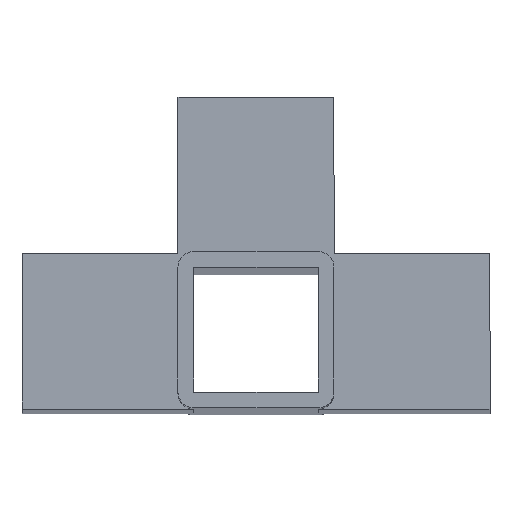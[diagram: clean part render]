
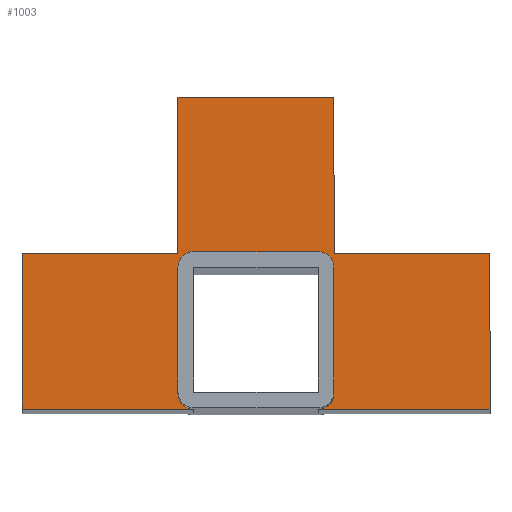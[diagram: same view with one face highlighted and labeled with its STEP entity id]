
A CAD part, top view. The second image highlights one B-rep face of the part: STEP entity #1003.
In plain terms, the highlighted planar face has unit normal (0, 0, 1).
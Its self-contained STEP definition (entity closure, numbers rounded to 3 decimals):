
#21 = VECTOR ( 'NONE', #971, 1000. ) ;
#32 = EDGE_CURVE ( 'NONE', #946, #1037, #891, .T. ) ;
#42 = ORIENTED_EDGE ( 'NONE', *, *, #797, .F. ) ;
#53 = VECTOR ( 'NONE', #463, 1000. ) ;
#58 = ORIENTED_EDGE ( 'NONE', *, *, #742, .F. ) ;
#62 = CARTESIAN_POINT ( 'NONE',  ( 15., 45., 250. ) ) ;
#64 = CARTESIAN_POINT ( 'NONE',  ( 12., -15., 250. ) ) ;
#84 = DIRECTION ( 'NONE',  ( 1., 0., 0. ) ) ;
#112 = LINE ( 'NONE', #836, #1169 ) ;
#131 = LINE ( 'NONE', #563, #238 ) ;
#150 = VECTOR ( 'NONE', #323, 1000. ) ;
#162 = LINE ( 'NONE', #1300, #253 ) ;
#174 = DIRECTION ( 'NONE',  ( 0., 0., 1. ) ) ;
#179 = VECTOR ( 'NONE', #531, 1000. ) ;
#185 = CARTESIAN_POINT ( 'NONE',  ( -15., 15., 250. ) ) ;
#187 = ORIENTED_EDGE ( 'NONE', *, *, #1052, .F. ) ;
#188 = LINE ( 'NONE', #356, #343 ) ;
#212 = CARTESIAN_POINT ( 'NONE',  ( 15., 0., 250. ) ) ;
#221 = VERTEX_POINT ( 'NONE', #532 ) ;
#225 = CARTESIAN_POINT ( 'NONE',  ( -12., 12., 250. ) ) ;
#238 = VECTOR ( 'NONE', #861, 1000. ) ;
#240 = CIRCLE ( 'NONE', #589, 3. ) ;
#249 = VERTEX_POINT ( 'NONE', #1143 ) ;
#253 = VECTOR ( 'NONE', #261, 1000. ) ;
#254 = LINE ( 'NONE', #212, #53 ) ;
#261 = DIRECTION ( 'NONE',  ( 0., -1., 0. ) ) ;
#272 = EDGE_LOOP ( 'NONE', ( #42, #488, #427, #1304, #1322, #389, #1107, #58, #705, #515, #675, #1070, #764, #316, #600, #187 ) ) ;
#277 = CARTESIAN_POINT ( 'NONE',  ( -45., -15., 250. ) ) ;
#291 = VERTEX_POINT ( 'NONE', #537 ) ;
#293 = CARTESIAN_POINT ( 'NONE',  ( -45., 15., 250. ) ) ;
#307 = EDGE_CURVE ( 'NONE', #852, #472, #254, .T. ) ;
#316 = ORIENTED_EDGE ( 'NONE', *, *, #709, .F. ) ;
#323 = DIRECTION ( 'NONE',  ( -1., 0., 0. ) ) ;
#326 = DIRECTION ( 'NONE',  ( 0., 0., 1. ) ) ;
#343 = VECTOR ( 'NONE', #84, 1000. ) ;
#350 = VERTEX_POINT ( 'NONE', #185 ) ;
#356 = CARTESIAN_POINT ( 'NONE',  ( 0., 15., 250. ) ) ;
#385 = EDGE_CURVE ( 'NONE', #1009, #965, #760, .T. ) ;
#388 = CARTESIAN_POINT ( 'NONE',  ( 0., 15., 250. ) ) ;
#389 = ORIENTED_EDGE ( 'NONE', *, *, #385, .F. ) ;
#427 = ORIENTED_EDGE ( 'NONE', *, *, #684, .T. ) ;
#446 = DIRECTION ( 'NONE',  ( 1., 0., 0. ) ) ;
#458 = CARTESIAN_POINT ( 'NONE',  ( -12., 15., 250. ) ) ;
#463 = DIRECTION ( 'NONE',  ( 0., -1., 0. ) ) ;
#464 = CIRCLE ( 'NONE', #1016, 3. ) ;
#472 = VERTEX_POINT ( 'NONE', #983 ) ;
#477 = DIRECTION ( 'NONE',  ( 1., 0., 0. ) ) ;
#482 = LINE ( 'NONE', #1155, #150 ) ;
#488 = ORIENTED_EDGE ( 'NONE', *, *, #1024, .T. ) ;
#515 = ORIENTED_EDGE ( 'NONE', *, *, #886, .F. ) ;
#526 = VERTEX_POINT ( 'NONE', #783 ) ;
#531 = DIRECTION ( 'NONE',  ( 1., 0., 0. ) ) ;
#532 = CARTESIAN_POINT ( 'NONE',  ( 15., -12., 250. ) ) ;
#537 = CARTESIAN_POINT ( 'NONE',  ( -12., -15., 250. ) ) ;
#543 = LINE ( 'NONE', #388, #1051 ) ;
#545 = VECTOR ( 'NONE', #446, 1000. ) ;
#549 = CARTESIAN_POINT ( 'NONE',  ( -15., 12., 250. ) ) ;
#558 = CARTESIAN_POINT ( 'NONE',  ( 0., -15., 250. ) ) ;
#563 = CARTESIAN_POINT ( 'NONE',  ( 15., 0., 250. ) ) ;
#584 = EDGE_CURVE ( 'NONE', #350, #1074, #732, .T. ) ;
#589 = AXIS2_PLACEMENT_3D ( 'NONE', #998, #1184, #1276 ) ;
#593 = CARTESIAN_POINT ( 'NONE',  ( 0., 0., 250. ) ) ;
#600 = ORIENTED_EDGE ( 'NONE', *, *, #1271, .F. ) ;
#605 = VERTEX_POINT ( 'NONE', #663 ) ;
#642 = VECTOR ( 'NONE', #1046, 1000. ) ;
#663 = CARTESIAN_POINT ( 'NONE',  ( -15., -12., 250. ) ) ;
#667 = AXIS2_PLACEMENT_3D ( 'NONE', #225, #326, #1256 ) ;
#675 = ORIENTED_EDGE ( 'NONE', *, *, #584, .F. ) ;
#680 = DIRECTION ( 'NONE',  ( 1., 0., 0. ) ) ;
#684 = EDGE_CURVE ( 'NONE', #706, #526, #240, .T. ) ;
#705 = ORIENTED_EDGE ( 'NONE', *, *, #307, .F. ) ;
#706 = VERTEX_POINT ( 'NONE', #974 ) ;
#709 = EDGE_CURVE ( 'NONE', #291, #946, #482, .T. ) ;
#722 = DIRECTION ( 'NONE',  ( 1., 0., 0. ) ) ;
#727 = CARTESIAN_POINT ( 'NONE',  ( 0., 15., 250. ) ) ;
#732 = LINE ( 'NONE', #759, #21 ) ;
#742 = EDGE_CURVE ( 'NONE', #472, #249, #910, .T. ) ;
#759 = CARTESIAN_POINT ( 'NONE',  ( -15., 0., 250. ) ) ;
#760 = LINE ( 'NONE', #558, #1032 ) ;
#764 = ORIENTED_EDGE ( 'NONE', *, *, #32, .F. ) ;
#783 = CARTESIAN_POINT ( 'NONE',  ( 15., 12., 250. ) ) ;
#789 = DIRECTION ( 'NONE',  ( 0., -1., 0. ) ) ;
#796 = CARTESIAN_POINT ( 'NONE',  ( -15., 45., 250. ) ) ;
#797 = EDGE_CURVE ( 'NONE', #850, #937, #988, .T. ) ;
#819 = CARTESIAN_POINT ( 'NONE',  ( -12., -12., 250. ) ) ;
#832 = CARTESIAN_POINT ( 'NONE',  ( -45., 0., 250. ) ) ;
#836 = CARTESIAN_POINT ( 'NONE',  ( -15., 0., 250. ) ) ;
#845 = EDGE_CURVE ( 'NONE', #526, #221, #131, .T. ) ;
#850 = VERTEX_POINT ( 'NONE', #458 ) ;
#852 = VERTEX_POINT ( 'NONE', #62 ) ;
#861 = DIRECTION ( 'NONE',  ( 0., -1., 0. ) ) ;
#886 = EDGE_CURVE ( 'NONE', #1074, #852, #1087, .T. ) ;
#891 = LINE ( 'NONE', #832, #642 ) ;
#901 = DIRECTION ( 'NONE',  ( 1., 0., 0. ) ) ;
#910 = LINE ( 'NONE', #727, #179 ) ;
#917 = DIRECTION ( 'NONE',  ( 0., 0., 1. ) ) ;
#931 = EDGE_CURVE ( 'NONE', #965, #221, #958, .T. ) ;
#937 = VERTEX_POINT ( 'NONE', #549 ) ;
#946 = VERTEX_POINT ( 'NONE', #277 ) ;
#958 = CIRCLE ( 'NONE', #1201, 3. ) ;
#960 = EDGE_CURVE ( 'NONE', #249, #1009, #162, .T. ) ;
#965 = VERTEX_POINT ( 'NONE', #64 ) ;
#968 = DIRECTION ( 'NONE',  ( -1., 0., 0. ) ) ;
#969 = CARTESIAN_POINT ( 'NONE',  ( 0., 45., 250. ) ) ;
#971 = DIRECTION ( 'NONE',  ( 0., 1., 0. ) ) ;
#974 = CARTESIAN_POINT ( 'NONE',  ( 12., 15., 250. ) ) ;
#979 = PLANE ( 'NONE',  #1180 ) ;
#981 = CARTESIAN_POINT ( 'NONE',  ( 12., -12., 250. ) ) ;
#983 = CARTESIAN_POINT ( 'NONE',  ( 15., 15., 250. ) ) ;
#988 = CIRCLE ( 'NONE', #667, 3. ) ;
#998 = CARTESIAN_POINT ( 'NONE',  ( 12., 12., 250. ) ) ;
#1003 = ADVANCED_FACE ( 'NONE', ( #1101 ), #979, .T. ) ;
#1009 = VERTEX_POINT ( 'NONE', #1199 ) ;
#1016 = AXIS2_PLACEMENT_3D ( 'NONE', #819, #917, #722 ) ;
#1024 = EDGE_CURVE ( 'NONE', #850, #706, #188, .T. ) ;
#1032 = VECTOR ( 'NONE', #968, 1000. ) ;
#1037 = VERTEX_POINT ( 'NONE', #293 ) ;
#1046 = DIRECTION ( 'NONE',  ( 0., 1., 0. ) ) ;
#1051 = VECTOR ( 'NONE', #901, 1000. ) ;
#1052 = EDGE_CURVE ( 'NONE', #937, #605, #112, .T. ) ;
#1070 = ORIENTED_EDGE ( 'NONE', *, *, #1088, .F. ) ;
#1074 = VERTEX_POINT ( 'NONE', #796 ) ;
#1084 = DIRECTION ( 'NONE',  ( 0., 0., 1. ) ) ;
#1087 = LINE ( 'NONE', #969, #545 ) ;
#1088 = EDGE_CURVE ( 'NONE', #1037, #350, #543, .T. ) ;
#1101 = FACE_OUTER_BOUND ( 'NONE', #272, .T. ) ;
#1107 = ORIENTED_EDGE ( 'NONE', *, *, #960, .F. ) ;
#1143 = CARTESIAN_POINT ( 'NONE',  ( 45., 15., 250. ) ) ;
#1155 = CARTESIAN_POINT ( 'NONE',  ( 0., -15., 250. ) ) ;
#1169 = VECTOR ( 'NONE', #789, 1000. ) ;
#1180 = AXIS2_PLACEMENT_3D ( 'NONE', #593, #174, #680 ) ;
#1184 = DIRECTION ( 'NONE',  ( 0., 0., -1. ) ) ;
#1199 = CARTESIAN_POINT ( 'NONE',  ( 45., -15., 250. ) ) ;
#1201 = AXIS2_PLACEMENT_3D ( 'NONE', #981, #1084, #477 ) ;
#1256 = DIRECTION ( 'NONE',  ( 1., 0., 0. ) ) ;
#1271 = EDGE_CURVE ( 'NONE', #605, #291, #464, .T. ) ;
#1276 = DIRECTION ( 'NONE',  ( 1., 0., 0. ) ) ;
#1300 = CARTESIAN_POINT ( 'NONE',  ( 45., 0., 250. ) ) ;
#1304 = ORIENTED_EDGE ( 'NONE', *, *, #845, .T. ) ;
#1322 = ORIENTED_EDGE ( 'NONE', *, *, #931, .F. ) ;
